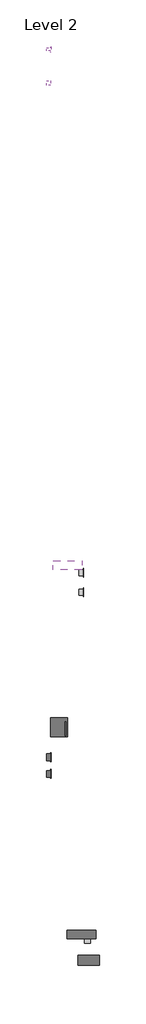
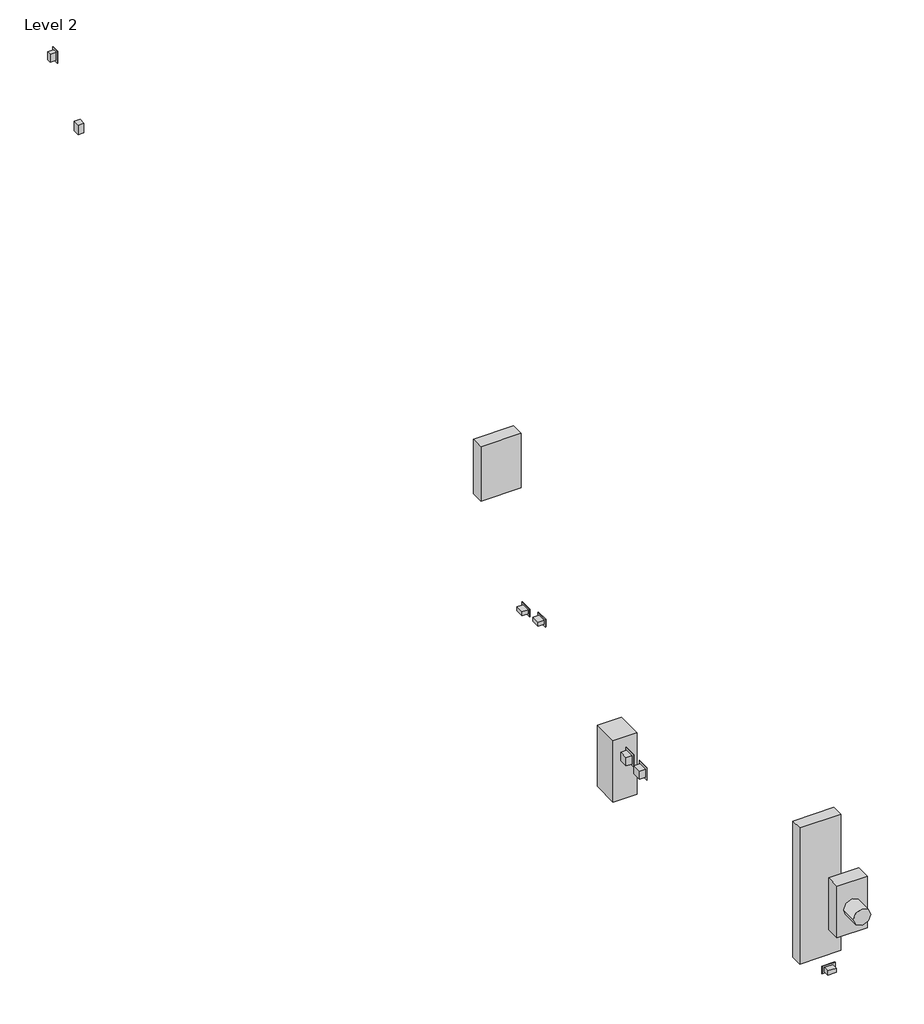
# One storey: 9 proxies, 2 switching devices.
"""IFC4 building model written with IfcOpenShell, lengths in millimetres."""

from ifc_helpers import new_model, si_unit, origin, place, context, project, spatial, transform, mapped, element, save
from components import proxy_100_a_191a7334, proxy_1e2a9226, proxy_208v_size_0_nf_25e77b5b, proxy_63c47fc0, proxy_c431c16a, proxy_df6c0c0f, proxy_537532d4, ba_generic_panel_fully_adjustable_generic_panel_57a4716d, surface_b9440dc5, switching_device_1_pole_3dda4a21

model = new_model("IFC4")

# Units and contexts
model_context = context("Model", 3, world=origin())
ifc_project = project(units=[si_unit("LENGTHUNIT", "METRE", prefix="MILLI")], contexts=[model_context])

# Site, building, storey
site = spatial("IfcSite", under=ifc_project)
building = spatial("IfcBuilding", under=site)
storey = spatial("IfcBuildingStorey", under=building, Name="Level 2", Elevation=3048.0)

# Proxies
placement = place(None, origin())
proxy_100_a_shape = proxy_100_a_191a7334(model_context)
element("IfcBuildingElementProxy", 1, Name="BA_EF - Meter : 100 A", ObjectType="BA_EF - Meter : 100 A", at=placement, inside=storey, context=model_context, shape_type="MappedRepresentation", body=[
    mapped(proxy_100_a_shape, transform((27294.3807734, 13129.3402655, 4267.2), x_axis=(1.0, 0.0, 0.0), y_axis=(0.0, 0.0, 1.0), z_axis=(0.0, -1.0, 0.0))),
])
proxy_shape = proxy_1e2a9226(model_context)
element("IfcBuildingElementProxy", 2, Name="BA_EF - Receptacle Duplex Wall : 18\"", ObjectType="BA_EF - Receptacle Duplex Wall : 18\"", at=placement, inside=storey, context=model_context, shape_type="MappedRepresentation", body=[
    mapped(proxy_shape, transform((27277.2942819, 13332.5402655, 3048.0), x_axis=(-1.0, 0.0, 0.0), y_axis=(0.0, 0.0, 1.0), z_axis=(0.0, 1.0, 0.0))),
])
proxy_208v_size_0_nf_shape = proxy_208v_size_0_nf_25e77b5b(model_context)
element("IfcBuildingElementProxy", 3, Name="BA_EF - Disconnect or Starter : 208V Size 0 - NF", ObjectType="BA_EF - Disconnect or Starter : 208V Size 0 - NF", at=placement, inside=storey, context=model_context, shape_type="MappedRepresentation", body=[
    mapped(proxy_208v_size_0_nf_shape, transform((26819.9108625, 16155.9710272, 4267.2), x_axis=(0.0, 1.0, 0.0), y_axis=(0.0, 0.0, 1.0), z_axis=(1.0, 0.0, 0.0))),
])
proxy_2_shape = proxy_63c47fc0(model_context)
element("IfcBuildingElementProxy", 4, Name="BA_EF - Receptacle Duplex Wall : 42\"", ObjectType="BA_EF - Receptacle Duplex Wall : 42\"", at=placement, inside=storey, context=model_context, shape_type="MappedRepresentation", body=[
    mapped(proxy_2_shape, transform((27226.3108625, 17869.0726764, 3048.0), x_axis=(0.0, 1.0, 0.0), y_axis=(0.0, 0.0, 1.0), z_axis=(1.0, 0.0, 0.0))),
])
proxy_3_shape = proxy_c431c16a(model_context)
element("IfcBuildingElementProxy", 5, Name="BA_EF - Receptacle Duplex Wall : 44\"", ObjectType="BA_EF - Receptacle Duplex Wall : 44\"", at=placement, inside=storey, context=model_context, shape_type="MappedRepresentation", body=[
    mapped(proxy_3_shape, transform((27226.3108625, 17626.1554881, 3048.0), x_axis=(0.0, 1.0, 0.0), y_axis=(0.0, 0.0, 1.0), z_axis=(1.0, 0.0, 0.0))),
])
proxy_4_shape = proxy_df6c0c0f(model_context)
element("IfcBuildingElementProxy", 6, Name="BA_EF - Junction Box NO PLATE : 80\"", ObjectType="BA_EF - Junction Box NO PLATE : 80\"", at=placement, inside=storey, context=model_context, shape_type="MappedRepresentation", body=[
    mapped(proxy_4_shape, transform((26819.9108625, 23937.0402655, 3048.0), x_axis=(0.0, 1.0, 0.0), y_axis=(0.0, 0.0, 1.0), z_axis=(1.0, 0.0, 0.0))),
])
proxy_5_shape = proxy_537532d4(model_context)
element("IfcBuildingElementProxy", 7, Name="BA_EF - Receptacle Duplex Wall : 96\"", ObjectType="BA_EF - Receptacle Duplex Wall : 96\"", at=placement, inside=storey, context=model_context, shape_type="MappedRepresentation", body=[
    mapped(proxy_5_shape, transform((26819.9108625, 24355.4869161, 3048.0), x_axis=(0.0, 1.0, 0.0), y_axis=(0.0, 0.0, 1.0), z_axis=(1.0, 0.0, 0.0))),
])
ba_generic_panel_fully_adjustable_generic_panel_shape = ba_generic_panel_fully_adjustable_generic_panel_57a4716d(model_context)
element("IfcBuildingElementProxy", 8, Name="BA_GENERIC PANEL - FULLY ADJUSTABLE : GENERIC PANEL", ObjectType="BA_GENERIC PANEL - FULLY ADJUSTABLE : GENERIC PANEL", at=placement, inside=storey, context=model_context, shape_type="MappedRepresentation", body=[
    mapped(ba_generic_panel_fully_adjustable_generic_panel_shape, transform((27123.2120987, 17904.5402655, 5722.5056703), x_axis=(-1.0, 0.0, 0.0), y_axis=(0.0, 0.0, 1.0), z_axis=(0.0, 1.0, 0.0))),
])
surface_shape = surface_b9440dc5(model_context)
element("IfcBuildingElementProxy", 9, Name="BA_EQ - Load Center : Surface", ObjectType="BA_EQ - Load Center : Surface", at=placement, inside=storey, context=model_context, shape_type="MappedRepresentation", body=[
    mapped(surface_shape, transform((27202.7066782, 13332.5402655, 3048.0), x_axis=(-1.0, 0.0, 0.0), y_axis=(0.0, 0.0, 1.0), z_axis=(0.0, 1.0, 0.0))),
])

# Switching devices
switching_device_1_pole_shape = switching_device_1_pole_3dda4a21(model_context)
element("IfcSwitchingDevice", 10, ObjectType="BA_EF - Lighting Switch : 1 pole", at=placement, inside=storey, context=model_context, shape_type="MappedRepresentation", body=[
    mapped(switching_device_1_pole_shape, transform((26819.9108625, 15580.3682981, 3048.0), x_axis=(0.0, 1.0, 0.0), y_axis=(0.0, 0.0, 1.0), z_axis=(1.0, 0.0, 0.0))),
])
element("IfcSwitchingDevice", 11, ObjectType="BA_EF - Lighting Switch : 1 pole", at=placement, inside=storey, context=model_context, shape_type="MappedRepresentation", body=[
    mapped(switching_device_1_pole_shape, transform((26819.9108625, 15375.4437178, 3048.0), x_axis=(0.0, 1.0, 0.0), y_axis=(0.0, 0.0, 1.0), z_axis=(1.0, 0.0, 0.0))),
])

save(model, "model.ifc")
